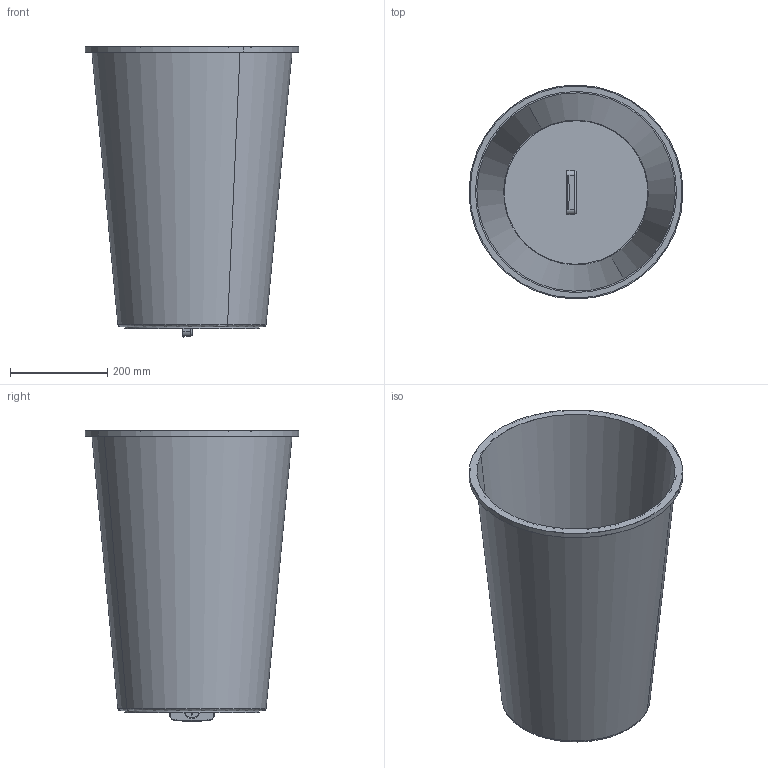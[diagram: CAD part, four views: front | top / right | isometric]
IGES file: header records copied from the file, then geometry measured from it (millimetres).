
Start section: START RECORD GO HERE.
Global section: file name: BASE_PT2.igs; native system: DASSAULT SYSTEMES CATIA V5 R21 - www.3ds.com; preprocessor: CATIA Version 5 Release 21 ; author: luisg; organization: DESKTOP-0B5R3KV; date: 20241124.231153; units: millimetre
Bounding box: 439.88 x 439.88 x 597.5 mm (x, y, z)
Surface area: 1510965.3 mm2 (no closed solid volume)
Topology: 0 solids, 0 shells, 81 faces, 416 edges, 416 vertices
Faces by surface type: plane 39, revolution 32, extrusion 10
